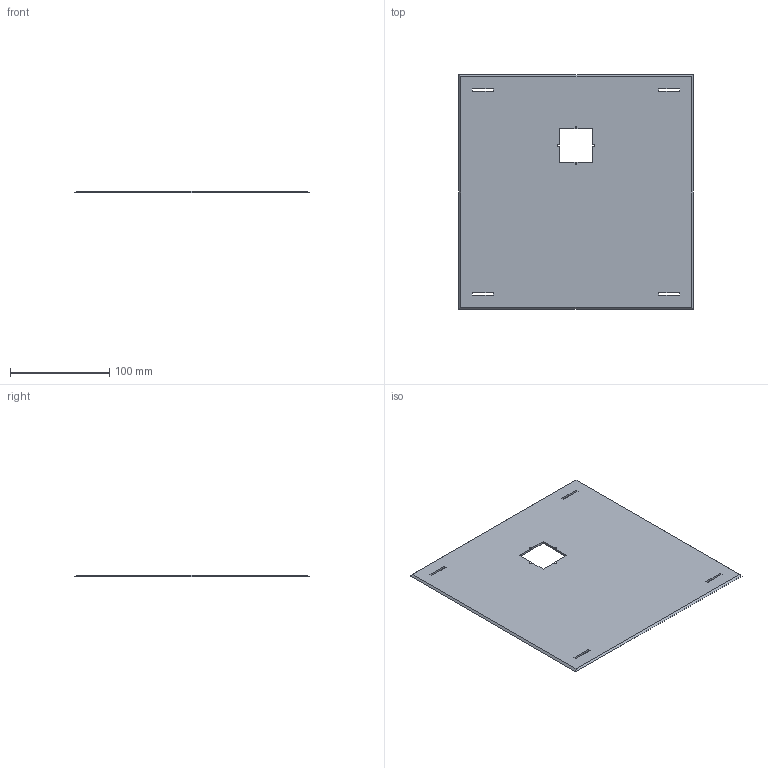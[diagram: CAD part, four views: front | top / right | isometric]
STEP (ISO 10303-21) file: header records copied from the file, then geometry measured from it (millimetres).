
FILE_DESCRIPTION (( 'STEP AP214' ), '1' );
FILE_NAME ('SC65.STEP', '2016-02-27T08:06:41', ( '' ), ( '' ), 'SwSTEP 2.0', 'SolidWorks 2012', '' );
FILE_SCHEMA (( 'AUTOMOTIVE_DESIGN' ));
Length unit declared in the file: millimetre
Products named in the file (1): SC65
Bounding box: 237 x 237 x 2 mm (x, y, z)
Volume: 107708.9 mm3; surface area: 111044.5 mm2
Topology: 1 solids, 1 shells, 43 faces, 123 edges, 82 vertices
Faces by surface type: plane 38, cylinder 5
Entity records: 1441 total; most frequent: CARTESIAN_POINT 249, ORIENTED_EDGE 246, DIRECTION 221, EDGE_CURVE 123, LINE 113, VECTOR 113, VERTEX_POINT 82, AXIS2_PLACEMENT_3D 54
